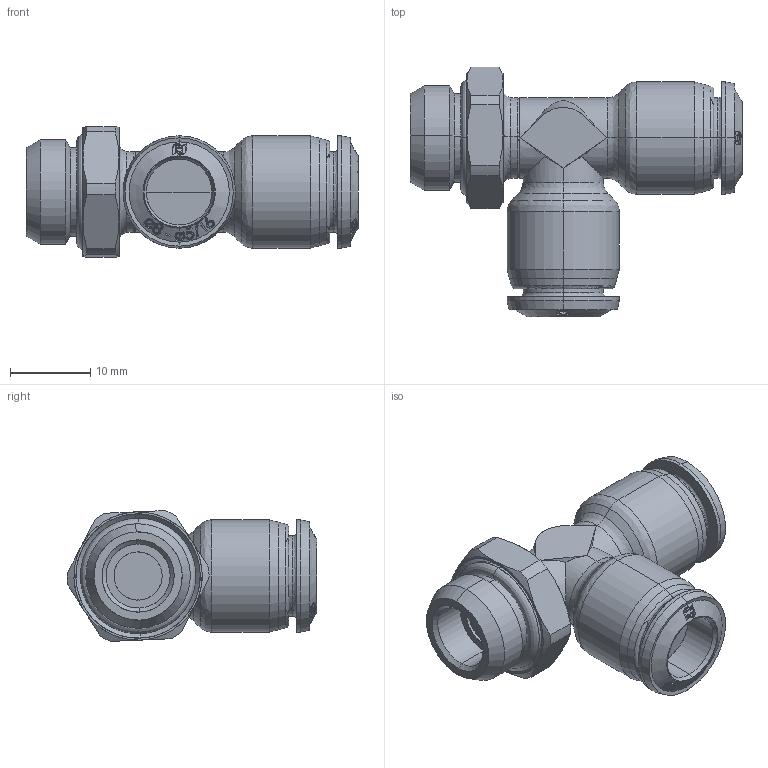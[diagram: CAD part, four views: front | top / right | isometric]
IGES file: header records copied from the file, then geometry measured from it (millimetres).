
Start section: SolidWorks IGES file using analytic representation for surfaces
Global section: file name: K:\Disegni Esecutivi\Serie 55000\ASSIEMI_55000\55226\ASSIEMI_PIENI_55226\55226000018.IGS; native system: SolidWorks 2007; preprocessor: SolidWorks 2007; author: cad02; date: 071126.171716; units: millimetre
Bounding box: 41.4 x 31.15 x 16.32 mm (x, y, z)
Surface area: 4057.8 mm2 (no closed solid volume)
Topology: 0 solids, 0 shells, 441 faces, 4686 edges, 4678 vertices
Faces by surface type: bspline 292, revolution 149
